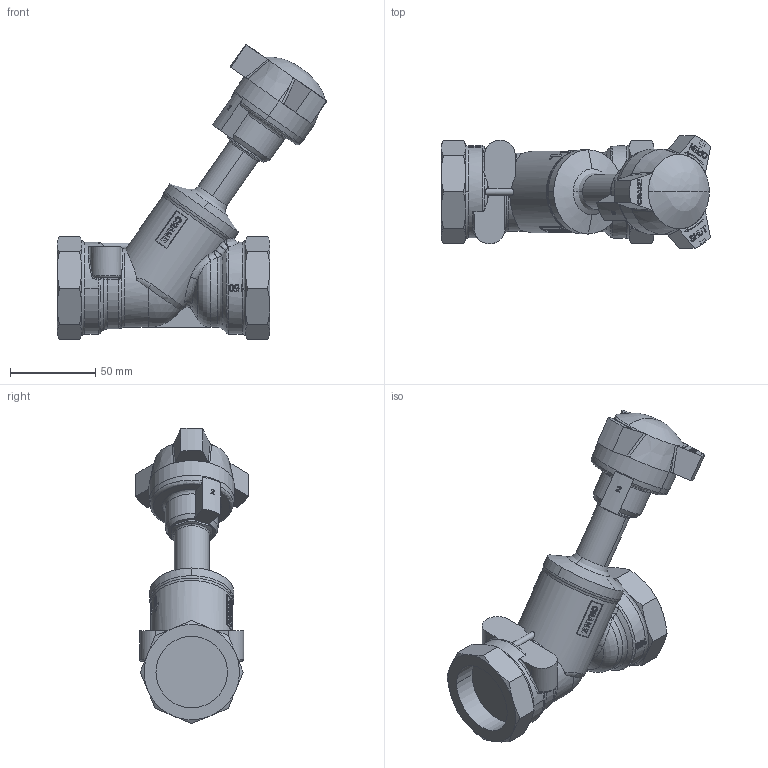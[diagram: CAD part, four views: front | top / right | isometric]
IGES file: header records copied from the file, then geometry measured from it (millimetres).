
Global section: file name: No Iges File Name specified; native system: AutoDesk Inventor R12.0; preprocessor: AutoDesk Inventor Iges Exporter R12.0; date: 20110307.091240; units: millimetre
Bounding box: 158.53 x 66.44 x 173.6 mm (x, y, z)
Volume: 383876.1 mm3; surface area: 49966.6 mm2
Topology: 1 solids, 1 shells, 808 faces, 2199 edges, 1434 vertices
Faces by surface type: bspline 375, plane 312, cylinder 57, cone 46, torus 9, revolution 7, sphere 2
